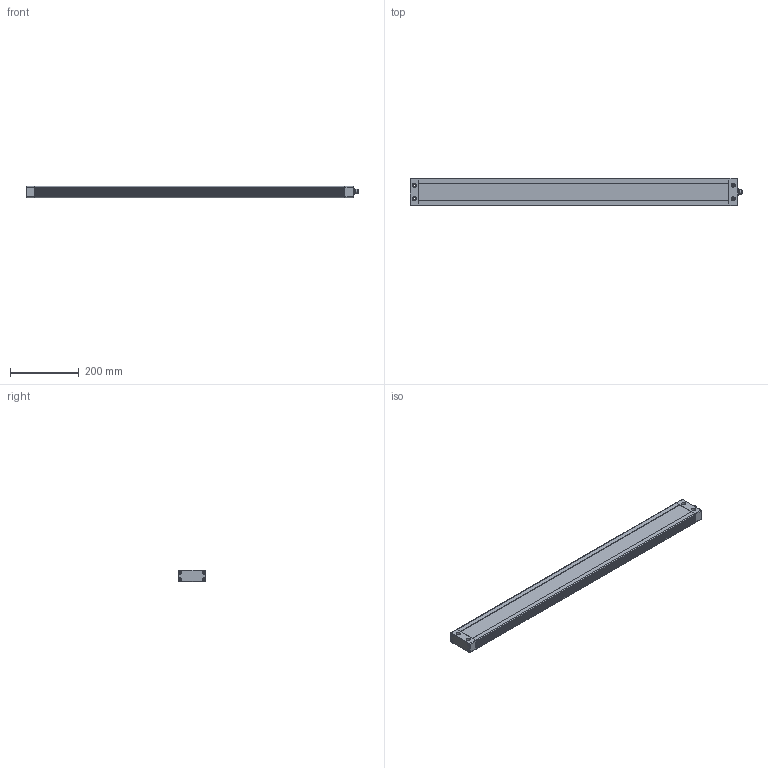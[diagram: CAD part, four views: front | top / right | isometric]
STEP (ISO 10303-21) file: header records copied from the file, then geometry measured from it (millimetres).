
FILE_DESCRIPTION(/* description */ (''),/* implementation_level */ '2;1');
FILE_NAME(/* name */ 'G:\Daten\Leuchten\05000 - LED APL - APL-RGBW\03 - CAD\Aktuelle Versionen Stand 26042023\APL900\led-aufbauleuchte-apl-900.stp',/* time_stamp */ '2023-04-26T06:57:12+02:00',/* author */ ('gzahn'),/* organization */ (''),/* preprocessor_version */ 'ST-DEVELOPER v19',/* originating_system */ 'Autodesk Inventor 2023',/* authorisation */ '');
FILE_SCHEMA (('AUTOMOTIVE_DESIGN { 1 0 10303 214 3 1 1 }'));
Length unit declared in the file: millimetre
Products named in the file (1): led-aufbauleuchte-apl-900
Bounding box: 963 x 80 x 32 mm (x, y, z)
Volume: 2205703.7 mm3; surface area: 288926.5 mm2
Topology: 1 solids, 1 shells, 546 faces, 1463 edges, 945 vertices
Faces by surface type: plane 233, cylinder 204, cone 76, bspline 30, torus 3
Full cylindrical faces by diameter (mm): 1 x5, 6.3 x4, 7.5 x8, 8.3 x1, 10.5 x1, 10.65 x1, 12 x5
Entity records: 19316 total; most frequent: CARTESIAN_POINT 6169, ORIENTED_EDGE 2910, DIRECTION 2514, EDGE_CURVE 1455, VERTEX_POINT 945, AXIS2_PLACEMENT_3D 944, LINE 626, VECTOR 626
